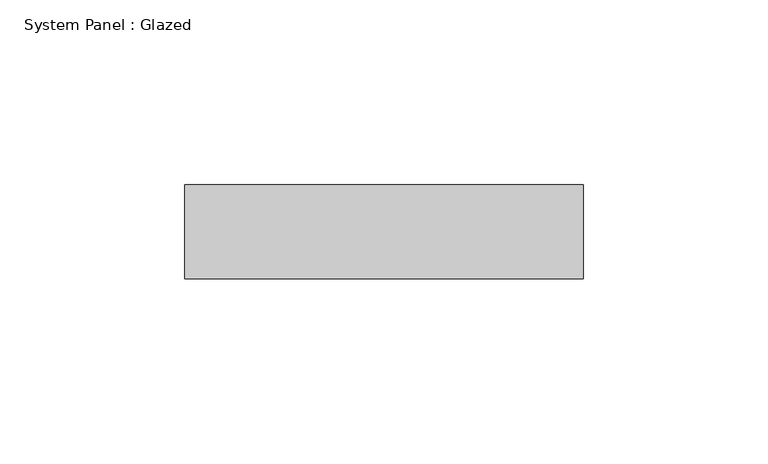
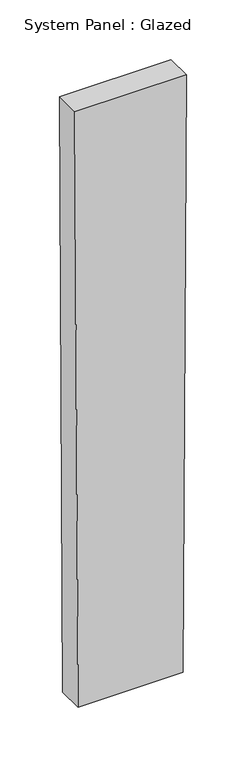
"""IFC4 building model written with IfcOpenShell, lengths in millimetres: plate geometry, System Panel : Glazed."""

from ifc_helpers import new_model, si_unit, frame, origin, place, context, project, spatial, polyline, outline, extrude, source, transform, mapped, element, save


def system_panel_glazed_0b964716(model_context):
    return source(origin(), model_context, "Body", "SweptSolid", [
        extrude(outline(polyline([(0.0, -50.9432642), (0.0, 50.9432642), (609.5925726, 53.9524893), (609.5925726, -53.9524893), (0.0, -50.9432642)])), frame((0.0, -44.45, 0.0), z_axis=(0.0, 1.0, 0.0), x_axis=(0.0, 0.0, 1.0)), (0.0, 0.0, 1.0), 25.4),
    ])


if __name__ == "__main__":
    model = new_model("IFC4")
    model_context = context("Model", 3, world=origin())
    ifc_project = project(units=[si_unit("LENGTHUNIT", "METRE", prefix="MILLI")], contexts=[model_context])
    site = spatial("IfcSite", under=ifc_project)
    building = spatial("IfcBuilding", under=site)
    placement = place(None, origin())
    system_panel_glazed_shape = system_panel_glazed_0b964716(model_context)
    element("IfcPlate", 1, ObjectType="System Panel : Glazed", at=placement, inside=building, context=model_context, shape_type="MappedRepresentation", body=[
        mapped(system_panel_glazed_shape, transform((0.0, 0.0, 0.0), x_axis=(1.0, 0.0, 0.0), y_axis=(0.0, 1.0, 0.0), z_axis=(0.0, 0.0, 1.0))),
    ])
    save(model, "model.ifc")
